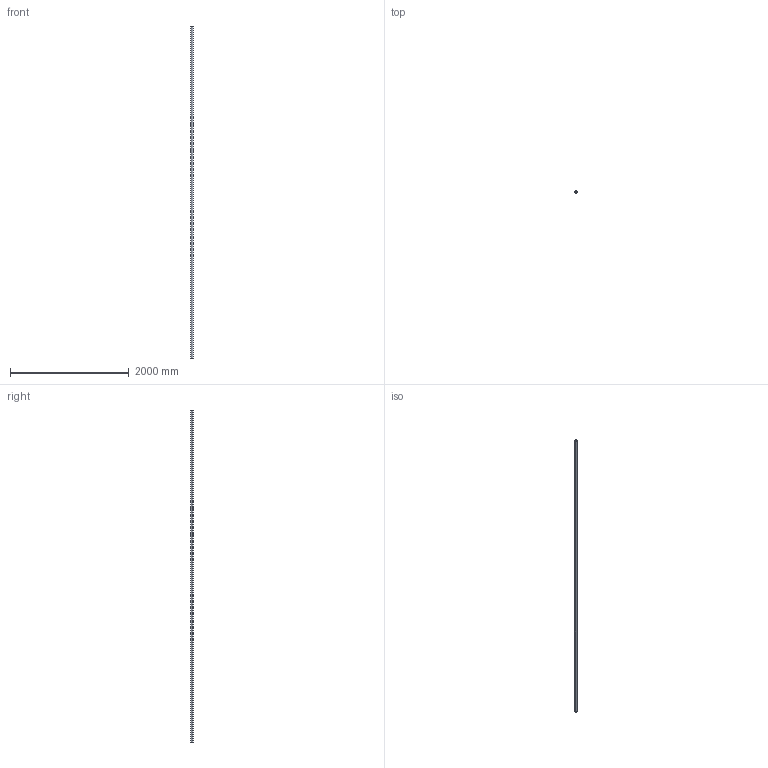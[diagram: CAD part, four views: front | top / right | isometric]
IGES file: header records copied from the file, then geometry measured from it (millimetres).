
Start section: SolidWorks IGES file using analytic representation for surfaces
Global section: file name: C:\Users\IanO\Desktop\L1771_v2\L1771.40_v2\L1771.40_v2_20230705_IGES\L1771.40-5600.igs; native system: SolidWorks 2019; preprocessor: SolidWorks 2019; author: IanO; date: 230705.163237; units: millimetre
Bounding box: 40 x 40 x 5600 mm (x, y, z)
Surface area: 1197600.3 mm2 (no closed solid volume)
Topology: 0 solids, 0 shells, 6 faces, 272 edges, 272 vertices
Faces by surface type: revolution 4, bspline 2
